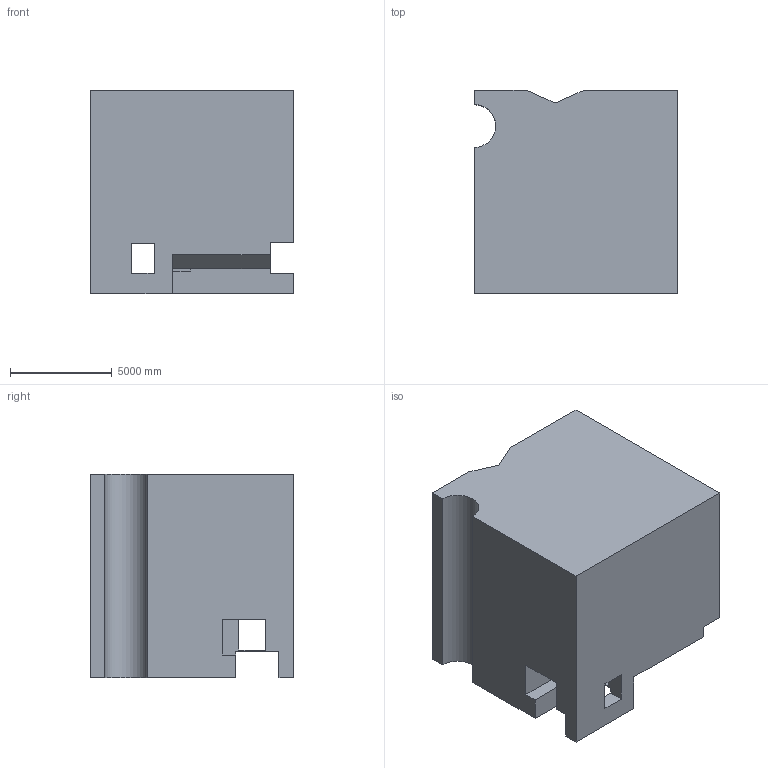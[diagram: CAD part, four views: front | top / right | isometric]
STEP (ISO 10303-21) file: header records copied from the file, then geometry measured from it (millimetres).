
FILE_DESCRIPTION (( 'STEP AP203' ), '1' );
FILE_NAME ('816.STEP', '2022-08-04T15:56:37', ( 'user' ), ( '' ), 'SwSTEP 2.0', 'SolidWorks 2021', '' );
FILE_SCHEMA (( 'CONFIG_CONTROL_DESIGN' ));
Length unit declared in the file: centimetre
Products named in the file (1): 816
Bounding box: 10000 x 10000 x 10000 mm (x, y, z)
Volume: 873749687768.9 mm3; surface area: 706525558.6 mm2
Topology: 1 solids, 1 shells, 48 faces, 153 edges, 102 vertices
Faces by surface type: plane 47, cylinder 1
Entity records: 1748 total; most frequent: ORIENTED_EDGE 306, CARTESIAN_POINT 304, DIRECTION 253, EDGE_CURVE 153, LINE 151, VECTOR 151, VERTEX_POINT 102, AXIS2_PLACEMENT_3D 51
